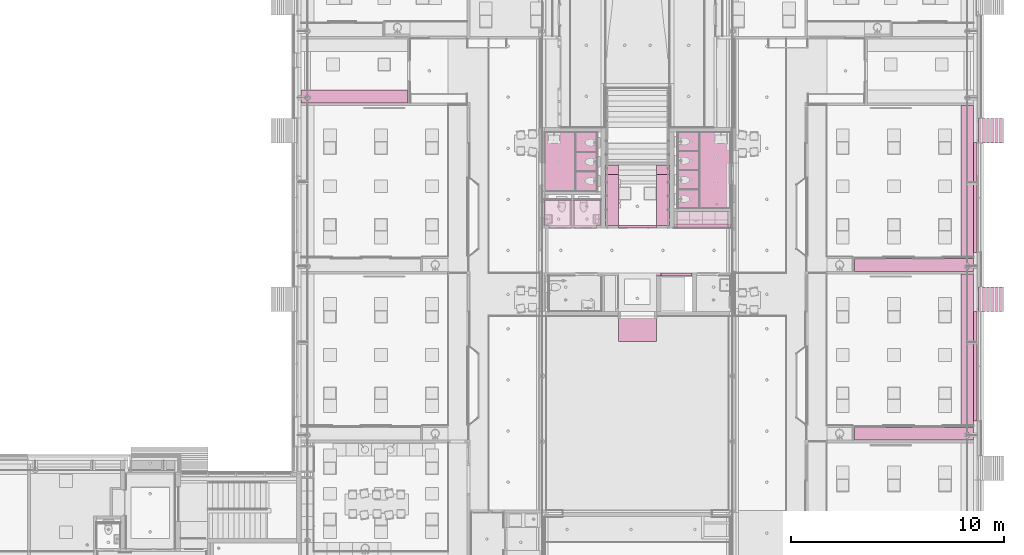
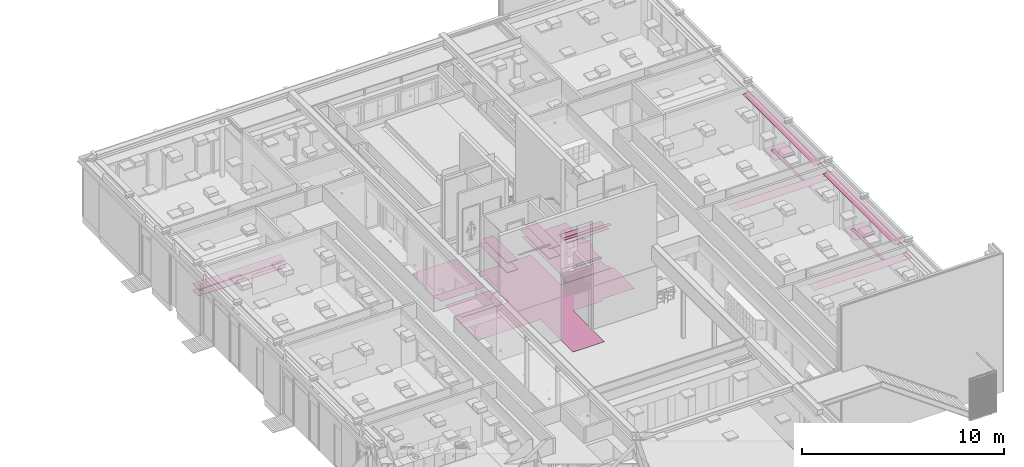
# One storey, part 325 of 347: 23 furnishings.
"""IFC2X3 building model written with IfcOpenShell, lengths in millimetres."""

from ifc_helpers import new_model, entity, si_unit, converted_unit, derived_unit, money_unit, direction, frame, origin_with_axes, place, context, subcontext, project, spatial, faceted_brep, material, type_object, element, save


model = new_model("IFC2X3")

# Units and contexts
model_context = context("Model", 3, precision=0.01, world=origin_with_axes(), true_north=direction((0.0, 1.0)))
plan_context = context("Plan", 3, precision=0.01, world=origin_with_axes(), true_north=direction((0.0, 1.0)))
body_context = subcontext(model_context, "Body", "Model", "MODEL_VIEW")
ifc_project = project(units=[si_unit("LENGTHUNIT", "METRE", prefix="MILLI"), si_unit("AREAUNIT", "SQUARE_METRE"), si_unit("VOLUMEUNIT", "CUBIC_METRE"), converted_unit("PLANEANGLEUNIT", "DEGREE", entity("IfcPlaneAngleMeasure", 0.0174532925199), si_unit("PLANEANGLEUNIT", "RADIAN"), dimensions=[0, 0, 0, 0, 0, 0, 0]), money_unit("EUR"), converted_unit("TIMEUNIT", "Year", entity("IfcTimeMeasure", 31556926.0), si_unit("TIMEUNIT", "SECOND"), dimensions=[0, 0, 1, 0, 0, 0, 0]), si_unit("MASSUNIT", "GRAM", prefix="KILO"), si_unit("THERMODYNAMICTEMPERATUREUNIT", "DEGREE_CELSIUS"), si_unit("LUMINOUSINTENSITYUNIT", "LUMEN"), si_unit("ENERGYUNIT", "JOULE", prefix="MEGA"), derived_unit("THERMALCONDUCTANCEUNIT", [(si_unit("POWERUNIT", "WATT"), 1), (si_unit("LENGTHUNIT", "METRE"), -1), (si_unit("THERMODYNAMICTEMPERATUREUNIT", "KELVIN"), -1)]), derived_unit("SPECIFICHEATCAPACITYUNIT", [(si_unit("ENERGYUNIT", "JOULE"), 1), (si_unit("MASSUNIT", "GRAM", prefix="KILO"), -1), (si_unit("THERMODYNAMICTEMPERATUREUNIT", "KELVIN"), -1)]), derived_unit("MASSDENSITYUNIT", [(si_unit("MASSUNIT", "GRAM", prefix="KILO"), 1), (si_unit("VOLUMEUNIT", "CUBIC_METRE"), -1)])], contexts=[model_context, plan_context])

# Site, building, storey
site_placement = place(None, origin_with_axes())
site = spatial("IfcSite", under=ifc_project, at=site_placement, Name="Site", CompositionType="ELEMENT")
building_placement = place(site_placement, origin_with_axes())
building = spatial("IfcBuilding", under=site, at=building_placement, Name="Naam gebouw", CompositionType="ELEMENT")
storey_placement = place(building_placement, origin_with_axes())
storey = spatial("IfcBuildingStorey", under=building, at=storey_placement, Name="begane grond", CompositionType="ELEMENT", Elevation=0.0)

# Furnishings
ifc_material_1 = material(Name="ALG - LICHTE SCHEIDINGSWAND")
furniture_type_1 = type_object("IfcFurnitureType", Name="44 koof plaf 50", AssemblyPlace="NOTDEFINED")
furnishing_1_placement = place(storey_placement, frame((50275.0, 28037.5, 2622.0), z_axis=(0.0, 0.0, 1.0), x_axis=(1.0, 0.0, 0.0)))
element("IfcFurnishingElement", 1, at=furnishing_1_placement, inside=storey, type_object=furniture_type_1, material=ifc_material_1, Name="72_75 vaste inrichting", ObjectType="SHELF", context=body_context, shape_type="Brep", body=[
    faceted_brep([(5600.00005655, 600.0, 0.0), (5600.00005655, 0.0, 0.0), (0.0, 0.0, 0.0), (0.0, 600.0, 0.0), (5395.57889873, 161.278371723, 0.0), (5410.1434441, 184.457712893, 0.0), (5419.18493726, 210.296815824, 0.0), (5422.25, 237.5, 0.0), (5419.18493726, 264.703184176, 0.0), (5410.1434441, 290.542287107, 0.0), (5395.57889873, 313.721628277, 0.0), (5376.22162828, 333.078898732, 0.0), (5353.04228711, 347.643444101, 0.0), (5327.20318418, 356.684937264, 0.0), (5300.0, 359.75, 0.0), (5272.79681582, 356.684937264, 0.0), (5246.95771289, 347.643444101, 0.0), (5223.77837172, 333.078898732, 0.0), (5204.42110127, 313.721628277, 0.0), (5189.8565559, 290.542287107, 0.0), (5180.81506274, 264.703184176, 0.0), (5177.75, 237.5, 0.0), (5180.81506274, 210.296815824, 0.0), (5189.8565559, 184.457712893, 0.0), (5204.42110127, 161.278371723, 0.0), (5223.77837172, 141.921101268, 0.0), (5246.95771289, 127.356555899, 0.0), (5272.79681582, 118.315062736, 0.0), (5300.0, 115.25, 0.0), (5327.20318418, 118.315062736, 0.0), (5353.04228711, 127.356555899, 0.0), (5376.22162828, 141.921101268, 0.0), (5600.00005655, 600.0, 12.0), (5600.00005655, 0.0, 12.0), (0.0, 0.0, 12.0), (0.0, 600.0, 12.0), (5395.57889873, 161.278371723, 12.0), (5410.1434441, 184.457712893, 12.0), (5419.18493726, 210.296815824, 12.0), (5422.25, 237.5, 12.0), (5419.18493726, 264.703184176, 12.0), (5410.1434441, 290.542287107, 12.0), (5395.57889873, 313.721628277, 12.0), (5376.22162828, 333.078898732, 12.0), (5353.04228711, 347.643444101, 12.0), (5327.20318418, 356.684937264, 12.0), (5300.0, 359.75, 12.0), (5272.79681582, 356.684937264, 12.0), (5246.95771289, 347.643444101, 12.0), (5223.77837172, 333.078898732, 12.0), (5204.42110127, 313.721628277, 12.0), (5189.8565559, 290.542287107, 12.0), (5180.81506274, 264.703184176, 12.0), (5177.75, 237.5, 12.0), (5180.81506274, 210.296815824, 12.0), (5189.8565559, 184.457712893, 12.0), (5204.42110127, 161.278371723, 12.0), (5223.77837172, 141.921101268, 12.0), (5246.95771289, 127.356555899, 12.0), (5272.79681582, 118.315062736, 12.0), (5300.0, 115.25, 12.0), (5327.20318418, 118.315062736, 12.0), (5353.04228711, 127.356555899, 12.0), (5376.22162828, 141.921101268, 12.0)], [[[0, 1, 2, 3], [4, 5, 6, 7, 8, 9, 10, 11, 12, 13, 14, 15, 16, 17, 18, 19, 20, 21, 22, 23, 24, 25, 26, 27, 28, 29, 30, 31]], [[32, 33, 1, 0]], [[33, 34, 2, 1]], [[34, 35, 3, 2]], [[35, 32, 0, 3]], [[4, 36, 37, 5]], [[5, 37, 38, 6]], [[6, 38, 39, 7]], [[7, 39, 40, 8]], [[8, 40, 41, 9]], [[9, 41, 42, 10]], [[10, 42, 43, 11]], [[11, 43, 44, 12]], [[12, 44, 45, 13]], [[13, 45, 46, 14]], [[14, 46, 47, 15]], [[15, 47, 48, 16]], [[16, 48, 49, 17]], [[17, 49, 50, 18]], [[18, 50, 51, 19]], [[19, 51, 52, 20]], [[20, 52, 53, 21]], [[21, 53, 54, 22]], [[22, 54, 55, 23]], [[23, 55, 56, 24]], [[24, 56, 57, 25]], [[25, 57, 58, 26]], [[26, 58, 59, 27]], [[27, 59, 60, 28]], [[28, 60, 61, 29]], [[29, 61, 62, 30]], [[30, 62, 63, 31]], [[31, 63, 36, 4]], [[32, 35, 34, 33], [42, 41, 40, 39, 38, 37, 36, 63, 62, 61, 60, 59, 58, 57, 56, 55, 54, 53, 52, 51, 50, 49, 48, 47, 46, 45, 44, 43]]]),
])
furnishing_2_placement = place(storey_placement, frame((41925.0, 30074.9998623, 2400.0), z_axis=(0.0, 0.0, 1.0), x_axis=(1.0, 0.0, 0.0)))
element("IfcFurnishingElement", 2, at=furnishing_2_placement, inside=storey, type_object=furniture_type_1, material=ifc_material_1, Name="72_75 vaste inrichting", ObjectType="SHELF", context=body_context, shape_type="Brep", body=[
    faceted_brep([(0.0, 0.0, 12.0), (0.0, 0.0, 0.0), (2400.0, 0.0, 0.0), (2400.0, 0.0, 12.0), (0.0, 790.00006534, 12.0), (0.0, 790.00006534, 0.0), (2400.0, 790.00006534, 0.0), (2400.0, 790.00006534, 12.0)], [[[0, 1, 2, 3]], [[4, 5, 1, 0]], [[2, 1, 5, 6]], [[3, 2, 6, 7]], [[4, 0, 3, 7]], [[7, 6, 5, 4]]]),
])
furnishing_3_placement = place(storey_placement, frame((39175.0, 30074.9999277, 2600.0), z_axis=(0.0, 0.0, 1.0), x_axis=(1.0, 0.0, 0.0)))
element("IfcFurnishingElement", 3, at=furnishing_3_placement, inside=storey, type_object=furniture_type_1, material=ifc_material_1, Name="72_75 vaste inrichting", ObjectType="SHELF", context=body_context, shape_type="Brep", body=[
    faceted_brep([(0.0, 0.0, 12.0), (0.0, 0.0, 0.0), (1800.0, 0.0, 0.0), (1800.0, 0.0, 12.0), (0.0, 125.0, 12.0), (0.0, 125.0, 0.0), (1800.0, 125.0, 0.0), (1800.0, 125.0, 12.0)], [[[0, 1, 2, 3]], [[4, 5, 1, 0]], [[2, 1, 5, 6]], [[3, 2, 6, 7]], [[4, 0, 3, 7]], [[7, 6, 5, 4]]]),
])
for number, where, z_axis, x_axis, name in (
    (4, (55875.0, 20812.5, 3200.0), (0.0, 0.0, 1.0), (1.0, 0.0, 0.0), "72_75 vaste inrichting"),
    (5, (55875.0, 28737.5, 3200.0), (0.0, 0.0, 1.0), (1.0, 0.0, 0.0), "72_75 vaste inrichting"),
):
    element("IfcFurnishingElement", number, at=place(storey_placement, frame(where, z_axis=z_axis, x_axis=x_axis)), inside=storey, type_object=furniture_type_1, material=ifc_material_1, Name=name, ObjectType="SHELF", context=body_context, shape_type="Brep", body=[
        faceted_brep([(0.0, 0.0, 12.0), (0.0, 0.0, 0.0), (0.0, 7100.0, 0.0), (0.0, 7100.0, 12.0), (-600.0, 0.0, 12.0), (-600.0, 0.0, 0.0), (-600.0, 7100.0, 0.0), (-600.0, 7100.0, 12.0)], [[[0, 1, 2, 3]], [[4, 5, 1, 0]], [[2, 1, 5, 6]], [[3, 2, 6, 7]], [[4, 0, 3, 7]], [[7, 6, 5, 4]]]),
    ])
furnishing_4_placement = place(storey_placement, frame((41180.0, 27823.5, 2600.0), z_axis=(0.0, 0.0, 1.0), x_axis=(1.0, 0.0, 0.0)))
element("IfcFurnishingElement", 6, at=furnishing_4_placement, inside=storey, type_object=furniture_type_1, material=ifc_material_1, Name="72_75 vaste inrichting", ObjectType="SHELF", context=body_context, shape_type="Brep", body=[
    faceted_brep([(0.0, 0.0, 12.0), (0.0, 0.0, 0.0), (1462.0, 0.0, 0.0), (1462.0, 0.0, 12.0), (0.0, 151.5, 12.0), (0.0, 151.5, 0.0), (1462.0, 151.5, 0.0), (1462.0, 151.5, 12.0)], [[[0, 1, 2, 3]], [[4, 5, 1, 0]], [[2, 1, 5, 6]], [[3, 2, 6, 7]], [[4, 0, 3, 7]], [[7, 6, 5, 4]]]),
])
furnishing_5_placement = place(storey_placement, frame((41785.0, 30074.9999277, 2600.0), z_axis=(0.0, 0.0, 1.0), x_axis=(1.0, 0.0, 0.0)))
element("IfcFurnishingElement", 7, at=furnishing_5_placement, inside=storey, type_object=furniture_type_1, material=ifc_material_1, Name="72_75 vaste inrichting", ObjectType="SHELF", context=body_context, shape_type="Brep", body=[
    faceted_brep([(0.0, 0.0, 12.0), (0.0, 0.0, 0.0), (2660.0, 0.0, 0.0), (2660.0, 0.0, 12.0), (0.0, 190.0, 12.0), (0.0, 190.0, 0.0), (2660.0, 190.0, 0.0), (2660.0, 190.0, 12.0)], [[[0, 1, 2, 3]], [[4, 5, 1, 0]], [[2, 1, 5, 6]], [[3, 2, 6, 7]], [[4, 0, 3, 7]], [[7, 6, 5, 4]]]),
])
furnishing_6_placement = place(storey_placement, frame((50275.0, 20112.5, 2622.0), z_axis=(0.0, 0.0, 1.0), x_axis=(1.0, 0.0, 0.0)))
element("IfcFurnishingElement", 8, at=furnishing_6_placement, inside=storey, type_object=furniture_type_1, material=ifc_material_1, Name="72_80 vaste inrichting", ObjectType="SHELF", context=body_context, shape_type="Brep", body=[
    faceted_brep([(5600.00005655, 600.0, 0.0), (5600.00005655, 0.0, 0.0), (0.0, 0.0, 0.0), (0.0, 600.0, 0.0), (5395.57889873, 161.278371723, 0.0), (5410.1434441, 184.457712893, 0.0), (5419.18493726, 210.296815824, 0.0), (5422.25, 237.5, 0.0), (5419.18493726, 264.703184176, 0.0), (5410.1434441, 290.542287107, 0.0), (5395.57889873, 313.721628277, 0.0), (5376.22162828, 333.078898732, 0.0), (5353.04228711, 347.643444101, 0.0), (5327.20318418, 356.684937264, 0.0), (5300.0, 359.75, 0.0), (5272.79681582, 356.684937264, 0.0), (5246.95771289, 347.643444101, 0.0), (5223.77837172, 333.078898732, 0.0), (5204.42110127, 313.721628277, 0.0), (5189.8565559, 290.542287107, 0.0), (5180.81506274, 264.703184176, 0.0), (5177.75, 237.5, 0.0), (5180.81506274, 210.296815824, 0.0), (5189.8565559, 184.457712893, 0.0), (5204.42110127, 161.278371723, 0.0), (5223.77837172, 141.921101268, 0.0), (5246.95771289, 127.356555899, 0.0), (5272.79681582, 118.315062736, 0.0), (5300.0, 115.25, 0.0), (5327.20318418, 118.315062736, 0.0), (5353.04228711, 127.356555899, 0.0), (5376.22162828, 141.921101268, 0.0), (5600.00005655, 600.0, 12.0), (5600.00005655, 0.0, 12.0), (0.0, 0.0, 12.0), (0.0, 600.0, 12.0), (5395.57889873, 161.278371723, 12.0), (5410.1434441, 184.457712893, 12.0), (5419.18493726, 210.296815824, 12.0), (5422.25, 237.5, 12.0), (5419.18493726, 264.703184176, 12.0), (5410.1434441, 290.542287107, 12.0), (5395.57889873, 313.721628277, 12.0), (5376.22162828, 333.078898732, 12.0), (5353.04228711, 347.643444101, 12.0), (5327.20318418, 356.684937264, 12.0), (5300.0, 359.75, 12.0), (5272.79681582, 356.684937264, 12.0), (5246.95771289, 347.643444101, 12.0), (5223.77837172, 333.078898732, 12.0), (5204.42110127, 313.721628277, 12.0), (5189.8565559, 290.542287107, 12.0), (5180.81506274, 264.703184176, 12.0), (5177.75, 237.5, 12.0), (5180.81506274, 210.296815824, 12.0), (5189.8565559, 184.457712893, 12.0), (5204.42110127, 161.278371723, 12.0), (5223.77837172, 141.921101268, 12.0), (5246.95771289, 127.356555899, 12.0), (5272.79681582, 118.315062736, 12.0), (5300.0, 115.25, 12.0), (5327.20318418, 118.315062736, 12.0), (5353.04228711, 127.356555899, 12.0), (5376.22162828, 141.921101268, 12.0)], [[[0, 1, 2, 3], [4, 5, 6, 7, 8, 9, 10, 11, 12, 13, 14, 15, 16, 17, 18, 19, 20, 21, 22, 23, 24, 25, 26, 27, 28, 29, 30, 31]], [[32, 33, 1, 0]], [[33, 34, 2, 1]], [[34, 35, 3, 2]], [[35, 32, 0, 3]], [[4, 36, 37, 5]], [[5, 37, 38, 6]], [[6, 38, 39, 7]], [[7, 39, 40, 8]], [[8, 40, 41, 9]], [[9, 41, 42, 10]], [[10, 42, 43, 11]], [[11, 43, 44, 12]], [[12, 44, 45, 13]], [[13, 45, 46, 14]], [[14, 46, 47, 15]], [[15, 47, 48, 16]], [[16, 48, 49, 17]], [[17, 49, 50, 18]], [[18, 50, 51, 19]], [[19, 51, 52, 20]], [[20, 52, 53, 21]], [[21, 53, 54, 22]], [[22, 54, 55, 23]], [[23, 55, 56, 24]], [[24, 56, 57, 25]], [[25, 57, 58, 26]], [[26, 58, 59, 27]], [[27, 59, 60, 28]], [[28, 60, 61, 29]], [[29, 61, 62, 30]], [[30, 62, 63, 31]], [[31, 63, 36, 4]], [[32, 35, 34, 33], [42, 41, 40, 39, 38, 37, 36, 63, 62, 61, 60, 59, 58, 57, 56, 55, 54, 53, 52, 51, 50, 49, 48, 47, 46, 45, 44, 43]]]),
])
ifc_material_2 = material(Name="Hout - Spaanplaat")
furniture_type_2 = type_object("IfcFurnitureType", Name="Hout - Spaanplaat 20", AssemblyPlace="NOTDEFINED")
furnishing_7_placement = place(storey_placement, frame((24275.0, 35962.5, 1800.0), z_axis=(0.0, 0.0, 1.0), x_axis=(1.0, 0.0, 0.0)))
element("IfcFurnishingElement", 9, at=furnishing_7_placement, inside=storey, type_object=furniture_type_2, material=ifc_material_2, Name="72_73 vaste inrichting", ObjectType="SHELF", context=body_context, shape_type="Brep", body=[
    faceted_brep([(5000.0, 600.0, -20.0), (5000.0, 0.0, -20.0), (0.0, 0.0, -20.0), (0.0, 600.0, -20.0), (395.578898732, 161.278371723, -20.0), (410.143444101, 184.457712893, -20.0), (419.184937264, 210.296815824, -20.0), (422.25, 237.5, -20.0), (419.184937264, 264.703184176, -20.0), (410.143444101, 290.542287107, -20.0), (395.578898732, 313.721628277, -20.0), (376.221628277, 333.078898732, -20.0), (353.042287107, 347.643444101, -20.0), (327.203184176, 356.684937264, -20.0), (300.0, 359.75, -20.0), (272.796815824, 356.684937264, -20.0), (246.957712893, 347.643444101, -20.0), (223.778371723, 333.078898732, -20.0), (204.421101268, 313.721628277, -20.0), (189.856555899, 290.542287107, -20.0), (180.815062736, 264.703184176, -20.0), (177.75, 237.5, -20.0), (180.815062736, 210.296815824, -20.0), (189.856555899, 184.457712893, -20.0), (204.421101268, 161.278371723, -20.0), (223.778371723, 141.921101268, -20.0), (246.957712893, 127.356555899, -20.0), (272.796815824, 118.315062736, -20.0), (300.0, 115.25, -20.0), (327.203184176, 118.315062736, -20.0), (353.042287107, 127.356555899, -20.0), (376.221628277, 141.921101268, -20.0), (5000.0, 600.0, 0.0), (5000.0, 0.0, 0.0), (0.0, 0.0, 0.0), (0.0, 600.0, 0.0), (395.578898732, 161.278371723, 0.0), (410.143444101, 184.457712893, 0.0), (419.184937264, 210.296815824, 0.0), (422.25, 237.5, 0.0), (419.184937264, 264.703184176, 0.0), (410.143444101, 290.542287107, 0.0), (395.578898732, 313.721628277, 0.0), (376.221628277, 333.078898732, 0.0), (353.042287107, 347.643444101, 0.0), (327.203184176, 356.684937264, 0.0), (300.0, 359.75, 0.0), (272.796815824, 356.684937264, 0.0), (246.957712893, 347.643444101, 0.0), (223.778371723, 333.078898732, 0.0), (204.421101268, 313.721628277, 0.0), (189.856555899, 290.542287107, 0.0), (180.815062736, 264.703184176, 0.0), (177.75, 237.5, 0.0), (180.815062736, 210.296815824, 0.0), (189.856555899, 184.457712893, 0.0), (204.421101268, 161.278371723, 0.0), (223.778371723, 141.921101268, 0.0), (246.957712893, 127.356555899, 0.0), (272.796815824, 118.315062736, 0.0), (300.0, 115.25, 0.0), (327.203184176, 118.315062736, 0.0), (353.042287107, 127.356555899, 0.0), (376.221628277, 141.921101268, 0.0)], [[[0, 1, 2, 3], [4, 5, 6, 7, 8, 9, 10, 11, 12, 13, 14, 15, 16, 17, 18, 19, 20, 21, 22, 23, 24, 25, 26, 27, 28, 29, 30, 31]], [[32, 33, 1, 0]], [[33, 34, 2, 1]], [[34, 35, 3, 2]], [[35, 32, 0, 3]], [[4, 36, 37, 5]], [[5, 37, 38, 6]], [[6, 38, 39, 7]], [[7, 39, 40, 8]], [[8, 40, 41, 9]], [[9, 41, 42, 10]], [[10, 42, 43, 11]], [[11, 43, 44, 12]], [[12, 44, 45, 13]], [[13, 45, 46, 14]], [[14, 46, 47, 15]], [[15, 47, 48, 16]], [[16, 48, 49, 17]], [[17, 49, 50, 18]], [[18, 50, 51, 19]], [[19, 51, 52, 20]], [[20, 52, 53, 21]], [[21, 53, 54, 22]], [[22, 54, 55, 23]], [[23, 55, 56, 24]], [[24, 56, 57, 25]], [[25, 57, 58, 26]], [[26, 58, 59, 27]], [[27, 59, 60, 28]], [[28, 60, 61, 29]], [[29, 61, 62, 30]], [[30, 62, 63, 31]], [[31, 63, 36, 4]], [[32, 35, 34, 33], [42, 41, 40, 39, 38, 37, 36, 63, 62, 61, 60, 59, 58, 57, 56, 55, 54, 53, 52, 51, 50, 49, 48, 47, 46, 45, 44, 43]]]),
])
furnishing_8_placement = place(storey_placement, frame((40975.0, 30199.9999277, 2300.0), z_axis=(0.0, 0.0, 1.0), x_axis=(1.0, 0.0, 0.0)))
element("IfcFurnishingElement", 10, at=furnishing_8_placement, inside=storey, type_object=furniture_type_2, material=ifc_material_2, Name="72_72 vaste inrichting", ObjectType="SHELF", context=body_context, shape_type="Brep", body=[
    faceted_brep([(0.0, 0.0, 0.0), (0.0, 0.0, -20.0), (600.0, 0.0, -20.0), (600.0, 0.0, 0.0), (0.0, 2400.0, 0.0), (0.0, 2400.0, -20.0), (600.0, 2400.0, -20.0), (600.0, 2400.0, 0.0)], [[[0, 1, 2, 3]], [[4, 5, 1, 0]], [[2, 1, 5, 6]], [[3, 2, 6, 7]], [[4, 0, 3, 7]], [[7, 6, 5, 4]]]),
])
furnishing_9_placement = place(storey_placement, frame((38575.0, 30199.9999277, 1700.0), z_axis=(0.0, 0.0, 1.0), x_axis=(1.0, 0.0, 0.0)))
element("IfcFurnishingElement", 11, at=furnishing_9_placement, inside=storey, type_object=furniture_type_2, material=ifc_material_2, Name="72_72 vaste inrichting", ObjectType="SHELF", context=body_context, shape_type="Brep", body=[
    faceted_brep([(0.0, 0.0, 0.0), (0.0, 0.0, -20.0), (600.0, 0.0, -20.0), (600.0, 0.0, 0.0), (0.0, 2850.0, 0.0), (0.0, 2850.0, -20.0), (600.0, 2850.0, -20.0), (600.0, 2850.0, 0.0)], [[[0, 1, 2, 3]], [[4, 5, 1, 0]], [[2, 1, 5, 6]], [[3, 2, 6, 7]], [[4, 0, 3, 7]], [[7, 6, 5, 4]]]),
])
furnishing_10_placement = place(storey_placement, frame((38575.0, 30199.9999277, 2300.0), z_axis=(0.0, 0.0, 1.0), x_axis=(1.0, 0.0, 0.0)))
element("IfcFurnishingElement", 12, at=furnishing_10_placement, inside=storey, type_object=furniture_type_2, material=ifc_material_2, Name="72_72 vaste inrichting", ObjectType="SHELF", context=body_context, shape_type="Brep", body=[
    faceted_brep([(0.0, 0.0, 0.0), (0.0, 0.0, -20.0), (600.0, 0.0, -20.0), (600.0, 0.0, 0.0), (0.0, 2400.0, 0.0), (0.0, 2400.0, -20.0), (600.0, 2400.0, -20.0), (600.0, 2400.0, 0.0)], [[[0, 1, 2, 3]], [[4, 5, 1, 0]], [[2, 1, 5, 6]], [[3, 2, 6, 7]], [[4, 0, 3, 7]], [[7, 6, 5, 4]]]),
])
furnishing_11_placement = place(storey_placement, frame((40975.0, 30199.9999277, 1700.0), z_axis=(0.0, 0.0, 1.0), x_axis=(1.0, 0.0, 0.0)))
element("IfcFurnishingElement", 13, at=furnishing_11_placement, inside=storey, type_object=furniture_type_2, material=ifc_material_2, Name="72_72 vaste inrichting", ObjectType="SHELF", context=body_context, shape_type="Brep", body=[
    faceted_brep([(0.0, 0.0, 0.0), (0.0, 0.0, -20.0), (600.0, 0.0, -20.0), (600.0, 0.0, 0.0), (0.0, 2850.0, 0.0), (0.0, 2850.0, -20.0), (600.0, 2850.0, -20.0), (600.0, 2850.0, 0.0)], [[[0, 1, 2, 3]], [[4, 5, 1, 0]], [[2, 1, 5, 6]], [[3, 2, 6, 7]], [[4, 0, 3, 7]], [[7, 6, 5, 4]]]),
])
furnishing_12_placement = place(storey_placement, frame((24275.0, 35962.5, 2200.0), z_axis=(0.0, 0.0, 1.0), x_axis=(1.0, 0.0, 0.0)))
element("IfcFurnishingElement", 14, at=furnishing_12_placement, inside=storey, type_object=furniture_type_2, material=ifc_material_2, Name="72_73 vaste inrichting", ObjectType="SHELF", context=body_context, shape_type="Brep", body=[
    faceted_brep([(5000.0, 600.0, -20.0), (5000.0, 0.0, -20.0), (0.0, 0.0, -20.0), (0.0, 600.0, -20.0), (395.578898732, 161.278371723, -20.0), (410.143444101, 184.457712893, -20.0), (419.184937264, 210.296815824, -20.0), (422.25, 237.5, -20.0), (419.184937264, 264.703184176, -20.0), (410.143444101, 290.542287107, -20.0), (395.578898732, 313.721628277, -20.0), (376.221628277, 333.078898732, -20.0), (353.042287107, 347.643444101, -20.0), (327.203184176, 356.684937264, -20.0), (300.0, 359.75, -20.0), (272.796815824, 356.684937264, -20.0), (246.957712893, 347.643444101, -20.0), (223.778371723, 333.078898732, -20.0), (204.421101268, 313.721628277, -20.0), (189.856555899, 290.542287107, -20.0), (180.815062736, 264.703184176, -20.0), (177.75, 237.5, -20.0), (180.815062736, 210.296815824, -20.0), (189.856555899, 184.457712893, -20.0), (204.421101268, 161.278371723, -20.0), (223.778371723, 141.921101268, -20.0), (246.957712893, 127.356555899, -20.0), (272.796815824, 118.315062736, -20.0), (300.0, 115.25, -20.0), (327.203184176, 118.315062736, -20.0), (353.042287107, 127.356555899, -20.0), (376.221628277, 141.921101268, -20.0), (5000.0, 600.0, 0.0), (5000.0, 0.0, 0.0), (0.0, 0.0, 0.0), (0.0, 600.0, 0.0), (395.578898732, 161.278371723, 0.0), (410.143444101, 184.457712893, 0.0), (419.184937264, 210.296815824, 0.0), (422.25, 237.5, 0.0), (419.184937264, 264.703184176, 0.0), (410.143444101, 290.542287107, 0.0), (395.578898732, 313.721628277, 0.0), (376.221628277, 333.078898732, 0.0), (353.042287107, 347.643444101, 0.0), (327.203184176, 356.684937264, 0.0), (300.0, 359.75, 0.0), (272.796815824, 356.684937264, 0.0), (246.957712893, 347.643444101, 0.0), (223.778371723, 333.078898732, 0.0), (204.421101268, 313.721628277, 0.0), (189.856555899, 290.542287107, 0.0), (180.815062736, 264.703184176, 0.0), (177.75, 237.5, 0.0), (180.815062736, 210.296815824, 0.0), (189.856555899, 184.457712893, 0.0), (204.421101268, 161.278371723, 0.0), (223.778371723, 141.921101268, 0.0), (246.957712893, 127.356555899, 0.0), (272.796815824, 118.315062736, 0.0), (300.0, 115.25, 0.0), (327.203184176, 118.315062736, 0.0), (353.042287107, 127.356555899, 0.0), (376.221628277, 141.921101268, 0.0)], [[[0, 1, 2, 3], [4, 5, 6, 7, 8, 9, 10, 11, 12, 13, 14, 15, 16, 17, 18, 19, 20, 21, 22, 23, 24, 25, 26, 27, 28, 29, 30, 31]], [[32, 33, 1, 0]], [[33, 34, 2, 1]], [[34, 35, 3, 2]], [[35, 32, 0, 3]], [[4, 36, 37, 5]], [[5, 37, 38, 6]], [[6, 38, 39, 7]], [[7, 39, 40, 8]], [[8, 40, 41, 9]], [[9, 41, 42, 10]], [[10, 42, 43, 11]], [[11, 43, 44, 12]], [[12, 44, 45, 13]], [[13, 45, 46, 14]], [[14, 46, 47, 15]], [[15, 47, 48, 16]], [[16, 48, 49, 17]], [[17, 49, 50, 18]], [[18, 50, 51, 19]], [[19, 51, 52, 20]], [[20, 52, 53, 21]], [[21, 53, 54, 22]], [[22, 54, 55, 23]], [[23, 55, 56, 24]], [[24, 56, 57, 25]], [[25, 57, 58, 26]], [[26, 58, 59, 27]], [[27, 59, 60, 28]], [[28, 60, 61, 29]], [[29, 61, 62, 30]], [[30, 62, 63, 31]], [[31, 63, 36, 4]], [[32, 35, 34, 33], [42, 41, 40, 39, 38, 37, 36, 63, 62, 61, 60, 59, 58, 57, 56, 55, 54, 53, 52, 51, 50, 49, 48, 47, 46, 45, 44, 43]]]),
])
ifc_material_3 = material(Name="42 vensterbank")
furniture_type_3 = type_object("IfcFurnitureType", Name="42 vensterbank 20", AssemblyPlace="NOTDEFINED")
furnishing_13_placement = place(storey_placement, frame((55875.0000144, 28937.5, 720.0), z_axis=(0.0, 0.0, 1.0), x_axis=(1.0, 0.0, 0.0)))
element("IfcFurnishingElement", 15, at=furnishing_13_placement, inside=storey, type_object=furniture_type_3, material=ifc_material_3, Name="72_73 vaste inrichting", ObjectType="SHELF", context=body_context, shape_type="Brep", body=[
    faceted_brep([(0.0, 0.0, 0.0), (0.0, 0.0, -20.0), (149.99997201, 0.0, -20.0), (149.99997201, 0.0, 0.0), (0.0, 5150.00000029, 0.0), (0.0, 5150.00000029, -20.0), (149.99997201, 5150.00000029, -20.0), (149.99997201, 5150.00000029, 0.0)], [[[0, 1, 2, 3]], [[4, 5, 1, 0]], [[2, 1, 5, 6]], [[3, 2, 6, 7]], [[4, 0, 3, 7]], [[7, 6, 5, 4]]]),
])
furnishing_14_placement = place(storey_placement, frame((55875.0000144, 21012.5, 720.0), z_axis=(0.0, 0.0, 1.0), x_axis=(1.0, 0.0, 0.0)))
element("IfcFurnishingElement", 16, at=furnishing_14_placement, inside=storey, type_object=furniture_type_3, material=ifc_material_3, Name="72_73 vaste inrichting", ObjectType="SHELF", context=body_context, shape_type="Brep", body=[
    faceted_brep([(0.0, 0.0, 0.0), (0.0, 0.0, -20.0), (149.99997201, 0.0, -20.0), (149.99997201, 0.0, 0.0), (0.0, 5150.00000002, 0.0), (0.0, 5150.00000002, -20.0), (149.99997201, 5150.00000002, -20.0), (149.99997201, 5150.00000002, 0.0)], [[[0, 1, 2, 3]], [[4, 5, 1, 0]], [[2, 1, 5, 6]], [[3, 2, 6, 7]], [[4, 0, 3, 7]], [[7, 6, 5, 4]]]),
])
ifc_material_4 = material(Name="43 fresco Arabian pearl 3861")
furniture_type_4 = type_object("IfcFurnitureType", Name="43 fresco Arabian pearl 3861 2", AssemblyPlace="NOTDEFINED")
furnishing_15_placement = place(storey_placement, frame((38574.9998769, 30074.9998287, 0.0), z_axis=(0.0, 0.0, 1.0), x_axis=(1.0, 0.0, 0.0)))
element("IfcFurnishingElement", 17, at=furnishing_15_placement, inside=storey, type_object=furniture_type_4, material=ifc_material_4, Name="72_43 marmoleum", ObjectType="SHELF", context=body_context, shape_type="Brep", body=[
    faceted_brep([(0.0, 0.0, 2.0), (0.0, 0.0, 0.0), (-2987.99987686, 0.0, 0.0), (-2987.99987686, 0.0, 2.0), (0.0, 2975.00001158, 2.0), (0.0, 2975.00001158, 0.0), (3000.00018486, 2975.00001158, 0.0), (3000.00018486, 0.0, 0.0), (5993.00012314, 0.0, 0.0), (5993.00012314, -2099.99996881, 0.0), (4072.00026555, -2099.99996881, 0.0), (4072.00026555, -2251.49987604, 0.0), (2400.00017466, -2251.49987604, 0.0), (2400.00017466, -5334.99982868, 0.0), (600.000144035, -5334.99982868, 0.0), (600.000144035, -2099.99996881, 0.0), (-2987.99987686, -2099.99996881, 0.0), (-2987.99987686, -2099.99996881, 2.0), (600.000144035, -2099.99996881, 2.0), (600.000144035, -5334.99982868, 2.0), (2400.00017466, -5334.99982868, 2.0), (2400.00017466, -2251.49987604, 2.0), (4072.00026555, -2251.49987604, 2.0), (4072.00026555, -2099.99996881, 2.0), (5993.00012314, -2099.99996881, 2.0), (5993.00012314, 0.0, 2.0), (3000.00018486, 0.0, 2.0), (3000.00018486, 2975.00001158, 2.0)], [[[0, 1, 2, 3]], [[4, 5, 1, 0]], [[2, 1, 5, 6, 7, 8, 9, 10, 11, 12, 13, 14, 15, 16]], [[3, 2, 16, 17]], [[4, 0, 3, 17, 18, 19, 20, 21, 22, 23, 24, 25, 26, 27]], [[27, 6, 5, 4]], [[26, 7, 6, 27]], [[25, 8, 7, 26]], [[24, 9, 8, 25]], [[23, 10, 9, 24]], [[22, 11, 10, 23]], [[21, 12, 11, 22]], [[20, 13, 12, 21]], [[19, 14, 13, 20]], [[18, 15, 14, 19]], [[17, 16, 15, 18]]]),
])
ifc_material_5 = material(Name="Metaal - Aluminium")
furniture_type_5 = type_object("IfcFurnitureType", Name="Metaal - Aluminium 25", AssemblyPlace="NOTDEFINED")
for number, where, z_axis, x_axis, name in (
    (18, (56097.0000252, 35224.4999991, -15.0), (0.0, 0.0, 1.0), (1.0, 0.0, 0.0), "72_43 schoonloop zone 1"),
    (19, (56097.0000252, 27299.5, -15.0), (0.0, 0.0, 1.0), (1.0, 0.0, 0.0), "72_43 schoonloop zone 1"),
):
    element("IfcFurnishingElement", number, at=place(storey_placement, frame(where, z_axis=z_axis, x_axis=x_axis)), inside=storey, type_object=furniture_type_5, material=ifc_material_5, Name=name, ObjectType="SHELF", context=body_context, shape_type="Brep", body=[
        faceted_brep([(0.0, 0.0, 0.0), (0.0, 0.0, -25.0), (0.0, -1150.0, -25.0), (0.0, -1150.0, 0.0), (1199.99997171, 0.0, 0.0), (1199.99997171, 0.0, -25.0), (1199.99997171, -1150.0, -25.0), (1199.99997171, -1150.0, 0.0)], [[[0, 1, 2, 3]], [[4, 5, 1, 0]], [[2, 1, 5, 6]], [[3, 2, 6, 7]], [[4, 0, 3, 7]], [[7, 6, 5, 4]]]),
    ])
ifc_material_6 = material(Name="48 vloeivloer Bolidt")
furniture_type_6 = type_object("IfcFurnitureType", Name="48 vloeivloer Bolidt 2", AssemblyPlace="NOTDEFINED")
furnishing_16_placement = place(storey_placement, frame((35575.0, 33153.9999391, 0.0), z_axis=(0.0, 0.0, 1.0), x_axis=(1.0, 0.0, 0.0)))
element("IfcFurnishingElement", 20, at=furnishing_16_placement, inside=storey, type_object=furniture_type_6, material=ifc_material_6, Name="72_43 vloeivloer", ObjectType="SHELF", context=body_context, shape_type="Brep", body=[
    faceted_brep([(0.0, 0.0, 2.0), (0.0, 0.0, 0.0), (0.0, -1064.00002749, 0.0), (0.0, -1064.00002749, 2.0), (130.00001528, 0.0, 2.0), (130.00001528, 0.0, 0.0), (130.00001528, 1436.00006095, 0.0), (2600.00001354, 1436.00006095, 0.0), (2600.00001354, -1364.0000114, 0.0), (130.00001528, -1364.0000114, 0.0), (130.00001528, -1064.00002749, 0.0), (130.00001528, -1064.00002749, 2.0), (130.00001528, -1364.0000114, 2.0), (2600.00001354, -1364.0000114, 2.0), (2600.00001354, 1436.00006095, 2.0), (130.00001528, 1436.00006095, 2.0)], [[[0, 1, 2, 3]], [[4, 5, 1, 0]], [[2, 1, 5, 6, 7, 8, 9, 10]], [[3, 2, 10, 11]], [[4, 0, 3, 11, 12, 13, 14, 15]], [[15, 6, 5, 4]], [[14, 7, 6, 15]], [[13, 8, 7, 14]], [[12, 9, 8, 13]], [[11, 10, 9, 12]]]),
])
furnishing_17_placement = place(storey_placement, frame((35705.0, 31399.999942, 0.0), z_axis=(0.0, 0.0, 1.0), x_axis=(1.0, 0.0, 0.0)))
element("IfcFurnishingElement", 21, at=furnishing_17_placement, inside=storey, type_object=furniture_type_6, material=ifc_material_6, Name="72_43 vloeivloer", ObjectType="SHELF", context=body_context, shape_type="Brep", body=[
    faceted_brep([(0.0, 0.0, 2.0), (0.0, 0.0, 0.0), (0.0, -1200.0000152, 0.0), (0.0, -1200.0000152, 2.0), (2660.0, 0.0, 2.0), (2660.0, 0.0, 0.0), (2660.0, -1200.0000152, 0.0), (2456.50001937, -1200.0000152, 0.0), (2456.50001937, -1325.00001431, 0.0), (203.499980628, -1325.00001431, 0.0), (203.499980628, -1200.0000152, 0.0), (203.499980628, -1200.0000152, 2.0), (203.499980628, -1325.00001431, 2.0), (2456.50001937, -1325.00001431, 2.0), (2456.50001937, -1200.0000152, 2.0), (2660.0, -1200.0000152, 2.0)], [[[0, 1, 2, 3]], [[4, 5, 1, 0]], [[2, 1, 5, 6, 7, 8, 9, 10]], [[3, 2, 10, 11]], [[4, 0, 3, 11, 12, 13, 14, 15]], [[15, 6, 5, 4]], [[14, 7, 6, 15]], [[13, 8, 7, 14]], [[12, 9, 8, 13]], [[11, 10, 9, 12]]]),
])
furnishing_18_placement = place(storey_placement, frame((41975.0, 34590.0, 0.0), z_axis=(0.0, 0.0, 1.0), x_axis=(1.0, 0.0, 0.0)))
element("IfcFurnishingElement", 22, at=furnishing_18_placement, inside=storey, type_object=furniture_type_6, material=ifc_material_6, Name="72_43 vloeivloer", ObjectType="SHELF", context=body_context, shape_type="Brep", body=[
    faceted_brep([(0.0, 0.0, 2.0), (0.0, 0.0, 0.0), (0.0, -3600.00007235, 0.0), (0.0, -3600.00007235, 2.0), (2469.99997811, 0.0, 2.0), (2469.99997811, 0.0, 0.0), (2469.99997811, -1436.00004674, 0.0), (2600.00001649, -1436.00004674, 0.0), (2600.00001649, -2500.000086, 0.0), (2469.99997811, -2500.000086, 0.0), (2469.99997811, -3600.00007235, 0.0), (2469.99997811, -3600.00007235, 2.0), (2469.99997811, -2500.000086, 2.0), (2600.00001649, -2500.000086, 2.0), (2600.00001649, -1436.00004674, 2.0), (2469.99997811, -1436.00004674, 2.0)], [[[0, 1, 2, 3]], [[4, 5, 1, 0]], [[2, 1, 5, 6, 7, 8, 9, 10]], [[3, 2, 10, 11]], [[4, 0, 3, 11, 12, 13, 14, 15]], [[15, 6, 5, 4]], [[14, 7, 6, 15]], [[13, 8, 7, 14]], [[12, 9, 8, 13]], [[11, 10, 9, 12]]]),
])
ifc_material_7 = material(Name="43 Fresco Moonstone 3883")
furniture_type_7 = type_object("IfcFurnitureType", Name="43 Fresco Moonstone 3883 2", AssemblyPlace="NOTDEFINED")
furnishing_19_placement = place(storey_placement, frame((41784.9999756, 30264.9999392, 0.0), z_axis=(0.0, 0.0, 1.0), x_axis=(1.0, 0.0, 0.0)))
element("IfcFurnishingElement", 23, at=furnishing_19_placement, inside=storey, type_object=furniture_type_7, material=ifc_material_7, Name="72_43 marmoleum", ObjectType="SHELF", context=body_context, shape_type="Brep", body=[
    faceted_brep([(0.0, 0.0, 2.0), (0.0, 0.0, 0.0), (0.0, -190.00001156, 0.0), (0.0, -190.00001156, 2.0), (140.000053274, 0.0, 2.0), (140.000053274, 0.0, 0.0), (140.000053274, 599.999999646, 0.0), (2540.00000184, 599.999999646, 0.0), (2540.00000184, 0.0, 0.0), (2660.00001177, 0.0, 0.0), (2660.00001177, -190.00001156, 0.0), (2660.00001177, -190.00001156, 2.0), (2660.00001177, 0.0, 2.0), (2540.00000184, 0.0, 2.0), (2540.00000184, 599.999999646, 2.0), (140.000053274, 599.999999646, 2.0)], [[[0, 1, 2, 3]], [[4, 5, 1, 0]], [[2, 1, 5, 6, 7, 8, 9, 10]], [[3, 2, 10, 11]], [[4, 0, 3, 11, 12, 13, 14, 15]], [[15, 6, 5, 4]], [[14, 7, 6, 15]], [[13, 8, 7, 14]], [[12, 9, 8, 13]], [[11, 10, 9, 12]]]),
])

save(model, "model.ifc")
